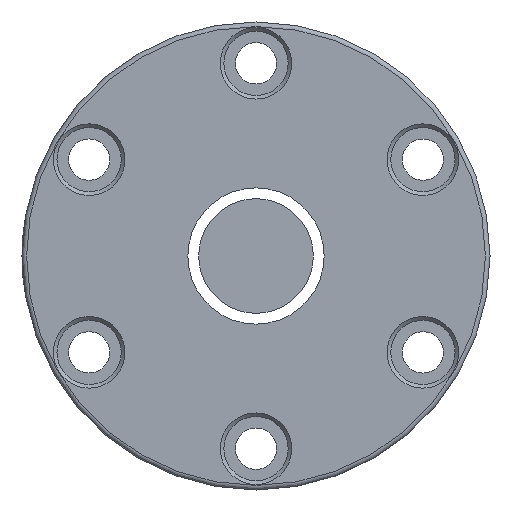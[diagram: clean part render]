
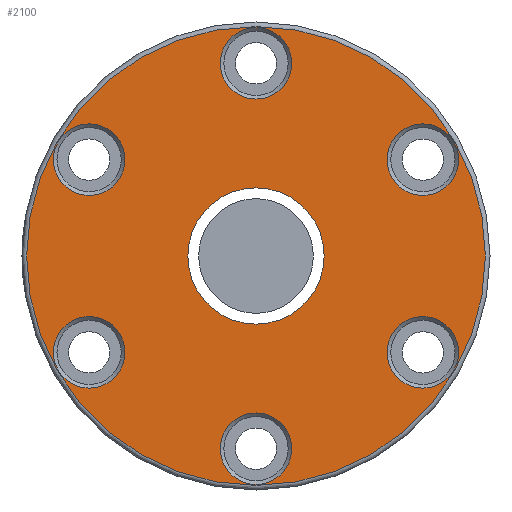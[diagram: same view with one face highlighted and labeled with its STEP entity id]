
A CAD part, left-side view. The second image highlights one B-rep face of the part: STEP entity #2100.
In plain terms, the highlighted planar face has unit normal (-1, 0, 0).
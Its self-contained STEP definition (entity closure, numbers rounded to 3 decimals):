
#23 = CARTESIAN_POINT ( 'NONE',  ( -70., 51., 0. ) ) ;
#28 = CIRCLE ( 'NONE', #2649, 7.8 ) ;
#34 = DIRECTION ( 'NONE',  ( 1., 0., 0. ) ) ;
#71 = AXIS2_PLACEMENT_3D ( 'NONE', #3549, #1002, #1285 ) ;
#99 = CARTESIAN_POINT ( 'NONE',  ( -70., 36.373, -21. ) ) ;
#105 = EDGE_LOOP ( 'NONE', ( #1572 ) ) ;
#109 = CARTESIAN_POINT ( 'NONE',  ( -70., 0., 42. ) ) ;
#275 = FACE_BOUND ( 'NONE', #1991, .T. ) ;
#299 = DIRECTION ( 'NONE',  ( 1., 0., 0. ) ) ;
#306 = PLANE ( 'NONE',  #3639 ) ;
#330 = CARTESIAN_POINT ( 'NONE',  ( -70., 0., 50. ) ) ;
#362 = EDGE_LOOP ( 'NONE', ( #2848 ) ) ;
#431 = EDGE_CURVE ( 'NONE', #3364, #3364, #3004, .T. ) ;
#521 = CARTESIAN_POINT ( 'NONE',  ( -70., 0., -14.85 ) ) ;
#535 = CARTESIAN_POINT ( 'NONE',  ( -70., -36.373, -13.2 ) ) ;
#565 = AXIS2_PLACEMENT_3D ( 'NONE', #1135, #299, #1435 ) ;
#755 = VERTEX_POINT ( 'NONE', #3595 ) ;
#806 = EDGE_CURVE ( 'NONE', #2498, #2498, #2819, .T. ) ;
#858 = DIRECTION ( 'NONE',  ( 0., 0., 1. ) ) ;
#888 = VERTEX_POINT ( 'NONE', #330 ) ;
#922 = EDGE_CURVE ( 'NONE', #2467, #2467, #1697, .T. ) ;
#1002 = DIRECTION ( 'NONE',  ( 1., 0., 0. ) ) ;
#1020 = DIRECTION ( 'NONE',  ( 1., 0., 0. ) ) ;
#1100 = CARTESIAN_POINT ( 'NONE',  ( -70., 36.373, -13.2 ) ) ;
#1126 = DIRECTION ( 'NONE',  ( 0., 0., 1. ) ) ;
#1135 = CARTESIAN_POINT ( 'NONE',  ( -70., -36.373, -21. ) ) ;
#1167 = ORIENTED_EDGE ( 'NONE', *, *, #2972, .T. ) ;
#1180 = FACE_BOUND ( 'NONE', #3637, .T. ) ;
#1220 = EDGE_CURVE ( 'NONE', #3300, #3300, #28, .T. ) ;
#1244 = ORIENTED_EDGE ( 'NONE', *, *, #806, .T. ) ;
#1285 = DIRECTION ( 'NONE',  ( 0., 0., 1. ) ) ;
#1333 = EDGE_LOOP ( 'NONE', ( #1788 ) ) ;
#1435 = DIRECTION ( 'NONE',  ( 0., 0., 1. ) ) ;
#1444 = FACE_BOUND ( 'NONE', #1333, .T. ) ;
#1553 = EDGE_CURVE ( 'NONE', #2191, #2191, #1762, .T. ) ;
#1561 = CARTESIAN_POINT ( 'NONE',  ( -70., 0., -42. ) ) ;
#1572 = ORIENTED_EDGE ( 'NONE', *, *, #1220, .T. ) ;
#1673 = DIRECTION ( 'NONE',  ( 0., 0., 1. ) ) ;
#1697 = CIRCLE ( 'NONE', #565, 7.8 ) ;
#1721 = FACE_BOUND ( 'NONE', #2408, .T. ) ;
#1759 = ORIENTED_EDGE ( 'NONE', *, *, #431, .T. ) ;
#1762 = CIRCLE ( 'NONE', #3220, 7.8 ) ;
#1788 = ORIENTED_EDGE ( 'NONE', *, *, #1553, .T. ) ;
#1843 = DIRECTION ( 'NONE',  ( 0., 0., 1. ) ) ;
#1886 = AXIS2_PLACEMENT_3D ( 'NONE', #109, #2616, #2578 ) ;
#1899 = DIRECTION ( 'NONE',  ( 0., 0., 1. ) ) ;
#1910 = CARTESIAN_POINT ( 'NONE',  ( -70., -36.373, 28.8 ) ) ;
#1925 = AXIS2_PLACEMENT_3D ( 'NONE', #3320, #2503, #1899 ) ;
#1977 = CIRCLE ( 'NONE', #71, 7.8 ) ;
#1991 = EDGE_LOOP ( 'NONE', ( #1167 ) ) ;
#2042 = FACE_BOUND ( 'NONE', #105, .T. ) ;
#2100 = ADVANCED_FACE ( 'NONE', ( #2543, #3392, #1444, #2814, #1180, #2042, #275, #1721 ), #306, .T. ) ;
#2103 = ORIENTED_EDGE ( 'NONE', *, *, #922, .T. ) ;
#2190 = EDGE_LOOP ( 'NONE', ( #2103 ) ) ;
#2191 = VERTEX_POINT ( 'NONE', #1910 ) ;
#2208 = DIRECTION ( 'NONE',  ( 1., 0., 0. ) ) ;
#2220 = CARTESIAN_POINT ( 'NONE',  ( -70., 0., 49.8 ) ) ;
#2277 = DIRECTION ( 'NONE',  ( 1., 0., 0. ) ) ;
#2280 = ORIENTED_EDGE ( 'NONE', *, *, #2893, .T. ) ;
#2292 = AXIS2_PLACEMENT_3D ( 'NONE', #3177, #34, #3405 ) ;
#2408 = EDGE_LOOP ( 'NONE', ( #1244 ) ) ;
#2450 = CARTESIAN_POINT ( 'NONE',  ( -70., 36.373, 28.8 ) ) ;
#2463 = CIRCLE ( 'NONE', #1925, 50. ) ;
#2467 = VERTEX_POINT ( 'NONE', #535 ) ;
#2498 = VERTEX_POINT ( 'NONE', #521 ) ;
#2503 = DIRECTION ( 'NONE',  ( -1., 0., 0. ) ) ;
#2543 = FACE_OUTER_BOUND ( 'NONE', #362, .T. ) ;
#2578 = DIRECTION ( 'NONE',  ( 0., 0., 1. ) ) ;
#2616 = DIRECTION ( 'NONE',  ( 1., 0., 0. ) ) ;
#2649 = AXIS2_PLACEMENT_3D ( 'NONE', #99, #2277, #858 ) ;
#2814 = FACE_BOUND ( 'NONE', #3051, .T. ) ;
#2819 = CIRCLE ( 'NONE', #2292, 14.85 ) ;
#2833 = DIRECTION ( 'NONE',  ( -1., 0., 0. ) ) ;
#2848 = ORIENTED_EDGE ( 'NONE', *, *, #3394, .T. ) ;
#2893 = EDGE_CURVE ( 'NONE', #3018, #3018, #1977, .T. ) ;
#2923 = CIRCLE ( 'NONE', #3525, 7.8 ) ;
#2972 = EDGE_CURVE ( 'NONE', #755, #755, #2923, .T. ) ;
#3004 = CIRCLE ( 'NONE', #1886, 7.8 ) ;
#3018 = VERTEX_POINT ( 'NONE', #2450 ) ;
#3051 = EDGE_LOOP ( 'NONE', ( #1759 ) ) ;
#3177 = CARTESIAN_POINT ( 'NONE',  ( -70., 0., 0. ) ) ;
#3220 = AXIS2_PLACEMENT_3D ( 'NONE', #3660, #2208, #1673 ) ;
#3300 = VERTEX_POINT ( 'NONE', #1100 ) ;
#3320 = CARTESIAN_POINT ( 'NONE',  ( -70., 0., 0. ) ) ;
#3364 = VERTEX_POINT ( 'NONE', #2220 ) ;
#3392 = FACE_BOUND ( 'NONE', #2190, .T. ) ;
#3394 = EDGE_CURVE ( 'NONE', #888, #888, #2463, .T. ) ;
#3405 = DIRECTION ( 'NONE',  ( 0., 0., -1. ) ) ;
#3525 = AXIS2_PLACEMENT_3D ( 'NONE', #1561, #1020, #1843 ) ;
#3549 = CARTESIAN_POINT ( 'NONE',  ( -70., 36.373, 21. ) ) ;
#3595 = CARTESIAN_POINT ( 'NONE',  ( -70., 0., -34.2 ) ) ;
#3637 = EDGE_LOOP ( 'NONE', ( #2280 ) ) ;
#3639 = AXIS2_PLACEMENT_3D ( 'NONE', #23, #2833, #1126 ) ;
#3660 = CARTESIAN_POINT ( 'NONE',  ( -70., -36.373, 21. ) ) ;
